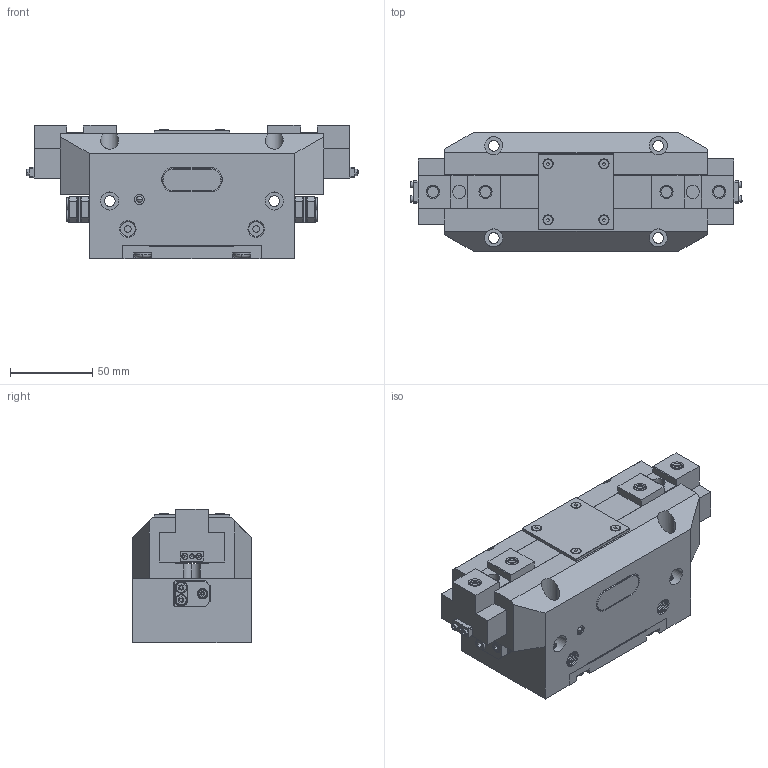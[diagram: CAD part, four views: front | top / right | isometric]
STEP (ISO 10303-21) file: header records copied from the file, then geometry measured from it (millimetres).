
FILE_DESCRIPTION (( 'STEP AP214' ), '1' );
FILE_NAME ('ST63.STEP', '2025-10-21T03:37:57', ( '' ), ( '' ), 'SwSTEP 2.0', 'SolidWorks 2024', '' );
FILE_SCHEMA (( 'AUTOMOTIVE_DESIGN' ));
Length unit declared in the file: millimetre
Products named in the file (1): ST63
Bounding box: 201.8 x 72.11 x 81 mm (x, y, z)
Volume: 591553.3 mm3; surface area: 156716.8 mm2
Topology: 34 solids, 34 shells, 2360 faces, 5290 edges, 3026 vertices
Faces by surface type: cone 1502, plane 520, cylinder 280, torus 54, sphere 4
Entity records: 65733 total; most frequent: CARTESIAN_POINT 12546, DIRECTION 11860, ORIENTED_EDGE 10492, EDGE_CURVE 5246, AXIS2_PLACEMENT_3D 4585, VERTEX_POINT 3026, LINE 2690, VECTOR 2690
